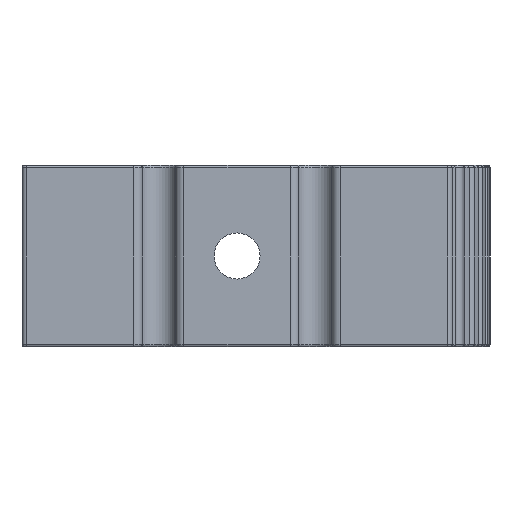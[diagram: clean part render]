
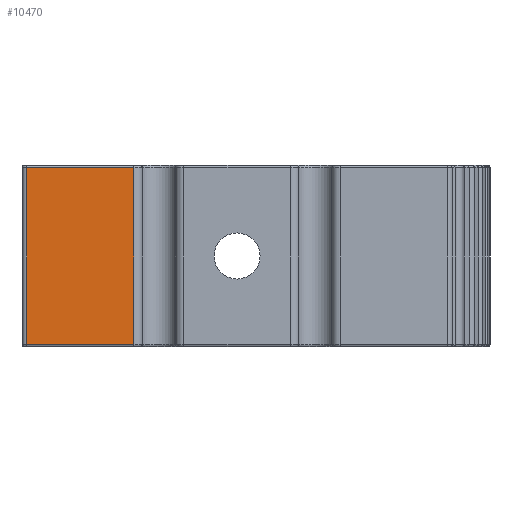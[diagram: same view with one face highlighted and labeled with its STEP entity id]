
A CAD part, left-side view. The second image highlights one B-rep face of the part: STEP entity #10470.
In plain terms, the highlighted planar face has unit normal (-1, 0, 0).
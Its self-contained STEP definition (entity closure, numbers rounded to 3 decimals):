
#3319=DIRECTION('',(0.,-1.,0.));
#3320=VECTOR('',#3319,23.119);
#3321=CARTESIAN_POINT('',(-68.985,113.481,-19.058));
#3322=LINE('',#3321,#3320);
#3879=DIRECTION('',(0.,0.,-1.));
#3880=VECTOR('',#3879,38.116);
#3881=CARTESIAN_POINT('',(-68.985,113.481,19.058));
#3882=LINE('',#3881,#3880);
#3900=DIRECTION('',(0.,0.,1.));
#3901=VECTOR('',#3900,38.116);
#3902=CARTESIAN_POINT('',(-68.985,90.361,-19.058));
#3903=LINE('',#3902,#3901);
#6108=DIRECTION('',(0.,1.,0.));
#6109=VECTOR('',#6108,23.119);
#6110=CARTESIAN_POINT('',(-68.985,90.361,19.058));
#6111=LINE('',#6110,#6109);
#7743=CARTESIAN_POINT('',(-68.985,90.361,-19.058));
#7744=VERTEX_POINT('',#7743);
#7745=CARTESIAN_POINT('',(-68.985,113.481,-19.058));
#7746=VERTEX_POINT('',#7745);
#7840=CARTESIAN_POINT('',(-68.985,113.481,19.058));
#7841=VERTEX_POINT('',#7840);
#7842=CARTESIAN_POINT('',(-68.985,90.361,19.058));
#7843=VERTEX_POINT('',#7842);
#10457=CARTESIAN_POINT('',(-68.985,114.473,19.554));
#10458=DIRECTION('',(1.,0.,0.));
#10459=DIRECTION('',(0.,0.,-1.));
#10460=AXIS2_PLACEMENT_3D('',#10457,#10458,#10459);
#10461=PLANE('',#10460);
#10463=ORIENTED_EDGE('',*,*,#10462,.F.);
#10464=ORIENTED_EDGE('',*,*,#9893,.F.);
#10465=ORIENTED_EDGE('',*,*,#10448,.F.);
#10467=ORIENTED_EDGE('',*,*,#10466,.F.);
#10468=EDGE_LOOP('',(#10463,#10464,#10465,#10467));
#10469=FACE_OUTER_BOUND('',#10468,.F.);
#9893=EDGE_CURVE('',#7746,#7744,#3322,.T.);
#10448=EDGE_CURVE('',#7841,#7746,#3882,.T.);
#10462=EDGE_CURVE('',#7744,#7843,#3903,.T.);
#10466=EDGE_CURVE('',#7843,#7841,#6111,.T.);
#10470=ADVANCED_FACE('',(#10469),#10461,.F.);
